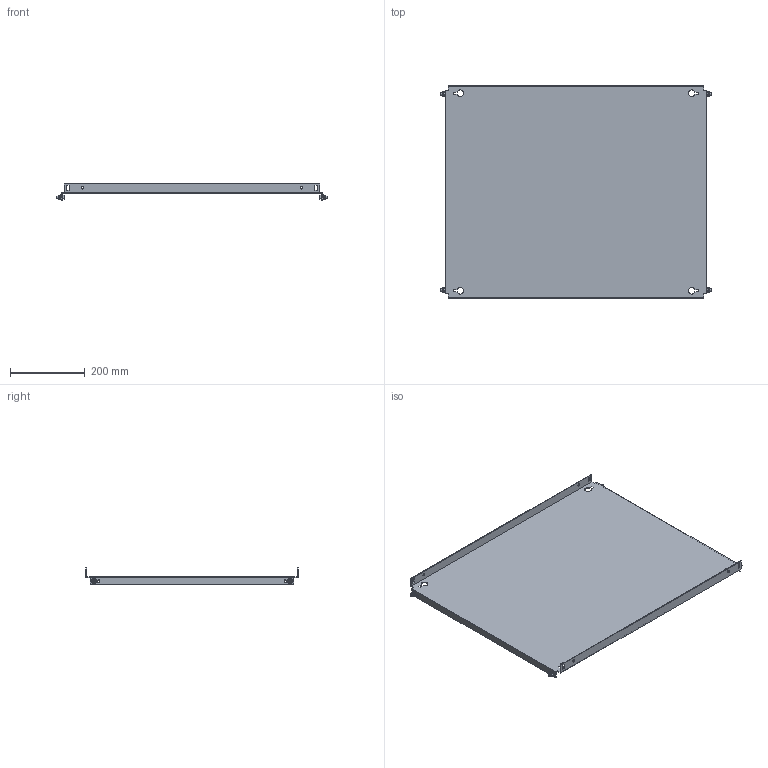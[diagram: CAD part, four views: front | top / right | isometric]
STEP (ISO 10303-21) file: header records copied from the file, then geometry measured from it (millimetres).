
FILE_DESCRIPTION(('Open CASCADE Model'),'2;1');
FILE_NAME('Open CASCADE Shape Model','2025-02-20T13:24:38',('Author'),( 'Open CASCADE'),'Open CASCADE STEP processor 7.8','Open CASCADE 7.8' ,'Unknown');
FILE_SCHEMA(('AUTOMOTIVE_DESIGN { 1 0 10303 214 1 1 1 1 }'));
Length unit declared in the file: millimetre
Products named in the file (4): Compound1; Solid1; Solid2; Solid3
Assembly tree (9 placements, depth 2):
  Compound1
    Solid1
    Solid2  x4
    Solid3  x4
Bounding box: 728 x 569 x 43 mm (x, y, z)
Volume: 900703.7 mm3; surface area: 906605.8 mm2
Topology: 9 solids, 9 shells, 306 faces, 746 edges, 462 vertices
Faces by surface type: plane 150, cone 68, bspline 48, cylinder 28, torus 12
Full cylindrical faces by diameter (mm): 5 x4, 6 x8, 7 x12
Entity records: 4844 total; most frequent: CARTESIAN_POINT 1361, ORIENTED_EDGE 742, DIRECTION 628, EDGE_CURVE 371, VERTEX_POINT 240, LINE 216, VECTOR 216, AXIS2_PLACEMENT_3D 206
